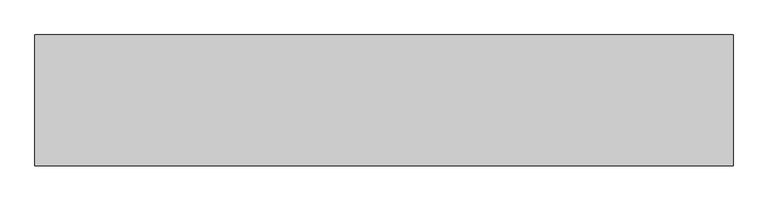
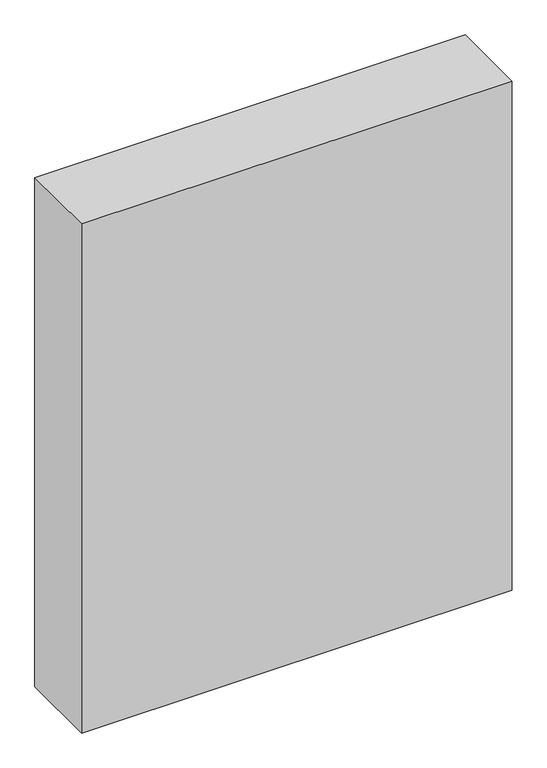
"""IFC4 building model written with IfcOpenShell, lengths in millimetres: geographic element geometry, 営_庁名板 : 庁名板."""

from ifc_helpers import new_model, si_unit, origin, origin_with_axes, place, context, project, spatial, polyline, outline, extrude, source, transform, mapped, element, save


def geographic_element_bdb0ab01(model_context):
    return source(origin(), model_context, "Body", "SweptSolid", [
        extrude(outline(polyline([(800.0, 300.0), (800.0, 0.0), (-800.0, 0.0), (-800.0, 300.0), (800.0, 300.0)])), origin_with_axes(), (0.0, 0.0, 1.0), 2000.0),
    ])


if __name__ == "__main__":
    model = new_model("IFC4")
    model_context = context("Model", 3, world=origin())
    ifc_project = project(units=[si_unit("LENGTHUNIT", "METRE", prefix="MILLI")], contexts=[model_context])
    site = spatial("IfcSite", under=ifc_project)
    building = spatial("IfcBuilding", under=site)
    placement = place(None, origin())
    geographic_element_shape = geographic_element_bdb0ab01(model_context)
    element("IfcGeographicElement", 1, ObjectType="営_庁名板 : 庁名板", at=placement, inside=building, context=model_context, shape_type="MappedRepresentation", body=[
        mapped(geographic_element_shape, transform((0.0, 0.0, 0.0), x_axis=(1.0, 0.0, 0.0), y_axis=(0.0, 1.0, 0.0), z_axis=(0.0, 0.0, 1.0))),
    ])
    save(model, "model.ifc")
